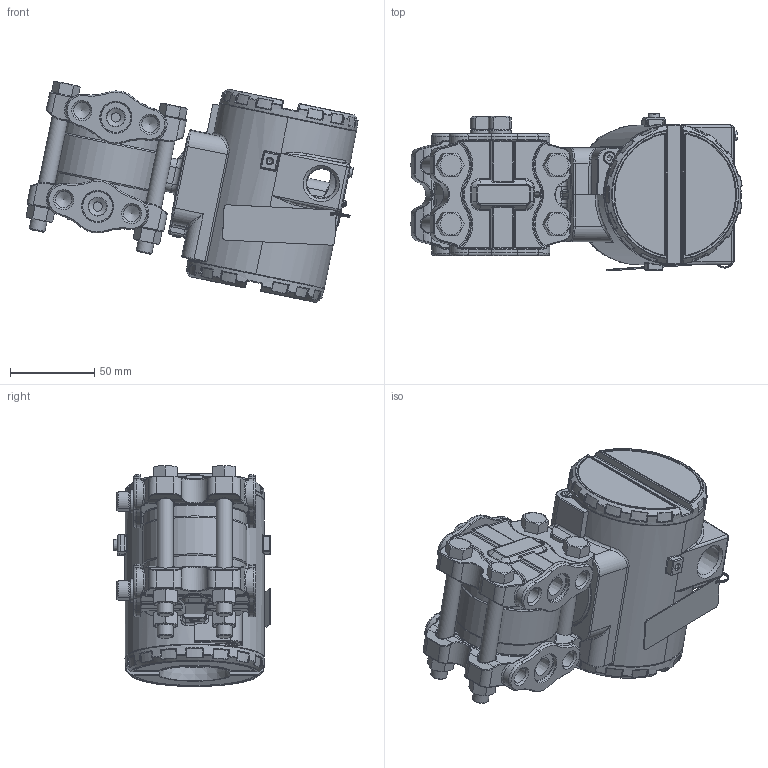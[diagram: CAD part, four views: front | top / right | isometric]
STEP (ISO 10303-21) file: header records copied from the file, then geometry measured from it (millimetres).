
FILE_DESCRIPTION(/* description */ (''),/* implementation_level */ '2;1');
FILE_NAME(/* name */ 'F:\Area\Desenvolvimento_2\Projects\Sensor\projetos\LD30X\montagens 3d - clientes\LD30XD0-3 1-4NPT sem purga.stp',/* time_stamp */ '2023-01-26T11:43:04-03:00',/* author */ ('inventor02'),/* organization */ (''),/* preprocessor_version */ 'ST-DEVELOPER v17',/* originating_system */ 'Autodesk Inventor 2019',/* authorisation */ '');
FILE_SCHEMA (('CONFIG_CONTROL_DESIGN'));
Length unit declared in the file: millimetre
Products named in the file (28): LD30XD0-3 1-4NPT sem purga; diferencial FX0-3 sem adaptador sem purga; involucro fx0-3 apos a usinagem final; bujao 1-4NPT; flange diferencial std sem purga; Paraf. 3-8 x 16 UNC; Porca 3-8 x 16 UNC; carcaça vazia com tampas e plaqueta; carcaça LD inox sem letras; Subconjunto plaqueta 300; Plaqueta transmissor; Parafuso da Plaqueta; Rebite da Plaqueta; 096-A-0169-03; 101-A-0502-01; Chapa aterramento externo; ISO 1207 - M4 x 8; DIN 915 - M6 x 10; ANSI B18.3.1M - M4x0,7 x 8; Subconjunto tampa com visor aluminio; tampa pintada; VIDRO DO VISOR; oring 41x1 vidro tampa; Trava do vidro da tampa com visor; trava do vidro VH256; Subconjunto tampa sem visor-aluminio; tampa cega 300 pintada p0; 00034775-0
Assembly tree (37 placements, depth 4):
  LD30XD0-3 1-4NPT sem purga
    diferencial FX0-3 sem adaptador sem purga
      involucro fx0-3 apos a usinagem final
      flange diferencial std sem purga  x2
      bujao 1-4NPT  x2
      Paraf. 3-8 x 16 UNC  x4
      Porca 3-8 x 16 UNC  x4
    carcaça vazia com tampas e plaqueta
      carcaça LD inox sem letras
      Subconjunto plaqueta 300
        Plaqueta transmissor
        Parafuso da Plaqueta
        Rebite da Plaqueta
        096-A-0169-03
        101-A-0502-01
      Chapa aterramento externo
      ISO 1207 - M4 x 8
      DIN 915 - M6 x 10
      ANSI B18.3.1M - M4x0,7 x 8  x2
      Subconjunto tampa com visor aluminio
        tampa pintada
        VIDRO DO VISOR
        oring 41x1 vidro tampa
        Trava do vidro da tampa com visor
        trava do vidro VH256
        00034775-0
      Subconjunto tampa sem visor-aluminio
        tampa cega 300 pintada p0
        00034775-0
Bounding box: 197.58 x 93.95 x 131.53 mm (x, y, z)
Volume: 584483.5 mm3; surface area: 229234.8 mm2
Topology: 32 solids, 32 shells, 2546 faces, 6065 edges, 3547 vertices
Faces by surface type: bspline 673, cylinder 615, plane 484, torus 434, cone 219, sphere 121
Full cylindrical faces by diameter (mm): 2 x2, 2.1 x2, 2.459 x5, 2.642 x1, 2.7 x1, 3 x3, 3.242 x4, 3.5 x4, 3.571 x1, 4 x4, 4.3 x1, 4.4 x1, 4.917 x1, 5.5 x4, 6 x2, 7 x4, 7.087 x2, 7.6 x2, 7.798 x4, 8.7 x2, 9.525 x4, 9.728 x8, 10.5 x8, 10.719 x4, 13.8 x2, 14 x1, 17.475 x2, 18.5 x4, 32.1 x2, 34.6 x2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
Entity records: 75423 total; most frequent: CARTESIAN_POINT 28894, ORIENTED_EDGE 9682, DIRECTION 9427, EDGE_CURVE 4841, AXIS2_PLACEMENT_3D 4142, VERTEX_POINT 2863, CIRCLE 2430, EDGE_LOOP 2154
